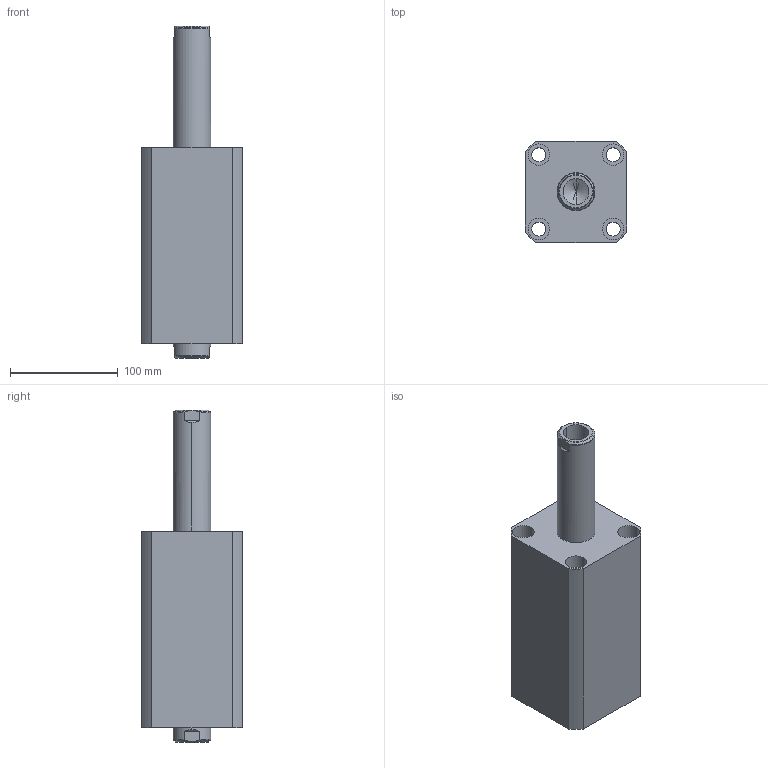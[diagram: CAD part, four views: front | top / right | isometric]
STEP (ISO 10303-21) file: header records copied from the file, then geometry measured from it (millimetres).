
FILE_DESCRIPTION (( 'STEP AP214' ), '1' );
FILE_NAME ('chtb-sw63x100n_asm.STEP', '2018-05-12T02:23:34', ( 'Windows' ), ( 'Microsoft' ), 'SwSTEP 2.0', 'SolidWorks 2015', '' );
FILE_SCHEMA (( 'AUTOMOTIVE_DESIGN' ));
Length unit declared in the file: millimetre
Products named in the file (4): CHTB-SW63X100NHSG; CHTB-SW63X100NBT; CHTB-63QG; chtb-sw63x100n_asm
Assembly tree (3 placements, depth 2):
  chtb-sw63x100n_asm
    CHTB-63QG
    CHTB-SW63X100NBT
    CHTB-SW63X100NHSG
Bounding box: 94 x 94 x 308 mm (x, y, z)
Volume: 1340722 mm3; surface area: 211742.8 mm2
Topology: 3 solids, 3 shells, 184 faces, 515 edges, 349 vertices
Faces by surface type: cylinder 106, plane 38, cone 16, bspline 12, torus 12
Entity records: 18385 total; most frequent: CARTESIAN_POINT 13775, ORIENTED_EDGE 1014, DIRECTION 814, EDGE_CURVE 507, VERTEX_POINT 349, AXIS2_PLACEMENT_3D 331, EDGE_LOOP 220, FACE_OUTER_BOUND 184
